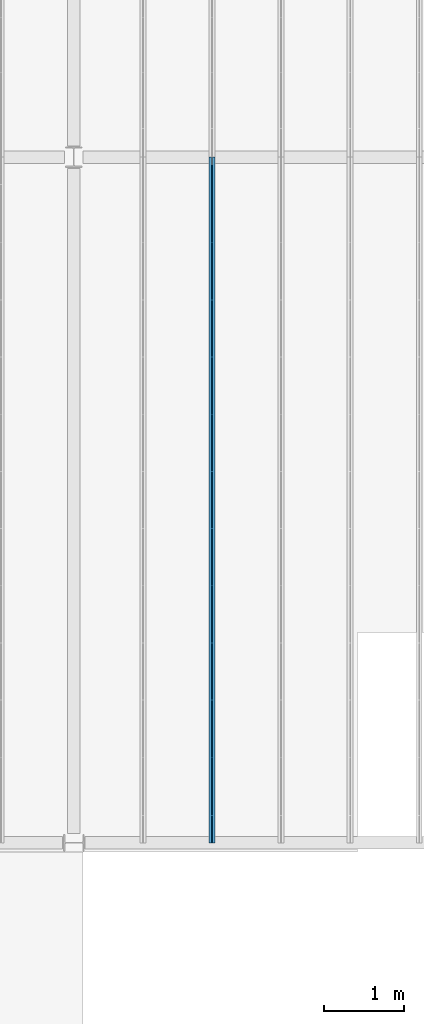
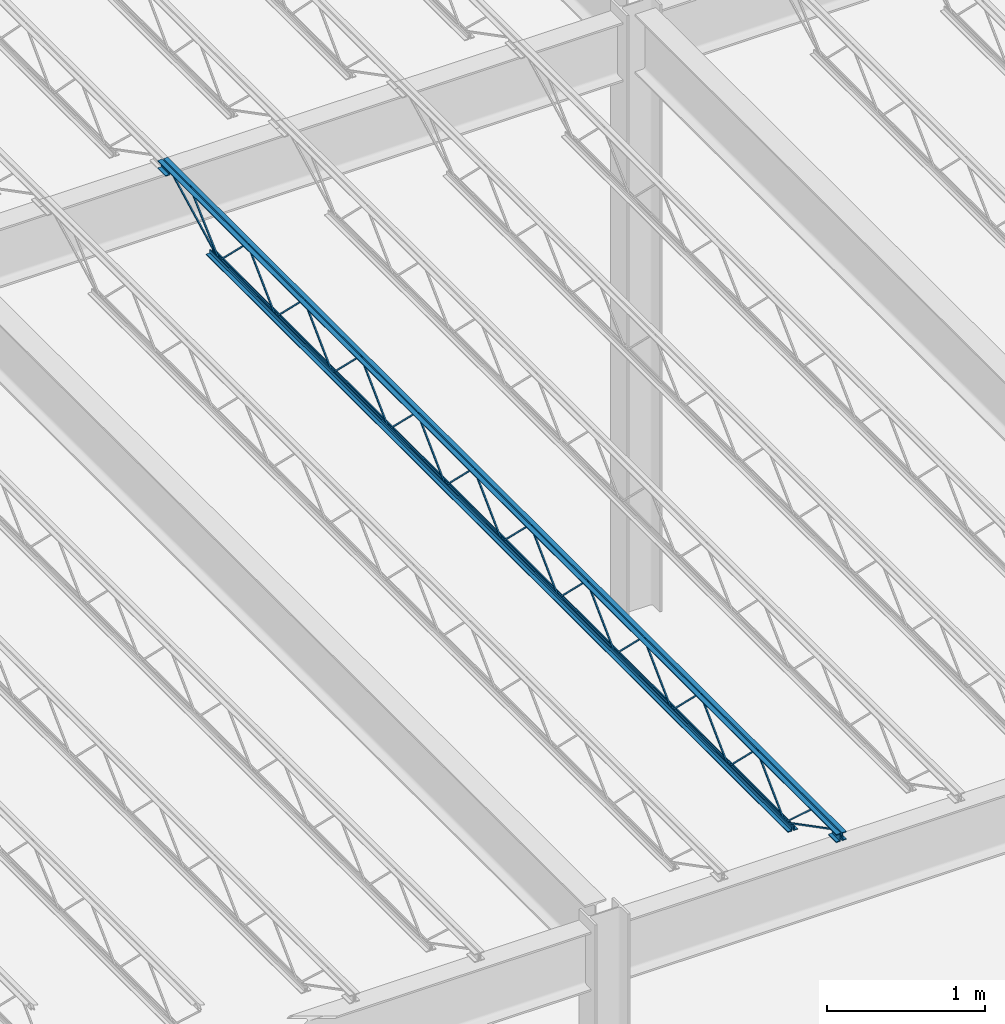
# One storey, part 47 of 119: 1 beam.
"""IFC2X3 building model written with IfcOpenShell, lengths in metres."""

from ifc_helpers import new_model, entity, si_unit, converted_unit, frame, origin, place, context, project, spatial, face_set, surface_model, element, save


model = new_model("IFC2X3")

# Units and contexts
model_context = context("Model", 3, precision=1e-09, world=origin())
plan_context = context("Plan", 3, precision=1e-09, world=origin())
ifc_project = project(units=[si_unit("LENGTHUNIT", "METRE"), si_unit("AREAUNIT", "SQUARE_METRE"), si_unit("VOLUMEUNIT", "CUBIC_METRE"), converted_unit("PLANEANGLEUNIT", "DEGREE", entity("IfcRatioMeasure", 0.01745329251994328), si_unit("PLANEANGLEUNIT", "RADIAN"), dimensions=[0, 0, 0, 0, 0, 0, 0]), si_unit("TIMEUNIT", "SECOND")], contexts=[model_context, plan_context])

# Site, building, storey
site_placement = place(None, origin())
site = spatial("IfcSite", under=ifc_project, at=site_placement, Name="Default", CompositionType="ELEMENT")
building_placement = place(site_placement, origin())
building = spatial("IfcBuilding", under=site, at=building_placement, CompositionType="ELEMENT")
storey_placement = place(building_placement, frame((0.0, 0.0, 4.570000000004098)))
storey = spatial("IfcBuildingStorey", under=building, at=storey_placement, Name="Second Floor", CompositionType="ELEMENT", Elevation=4.570000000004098)

# Beam
beam_placement = place(storey_placement, frame((-18.37007500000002, 10.03999999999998, 4.323999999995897)))
element("IfcBeam", 1, at=beam_placement, inside=storey, Name="M_K-Series Bar Joist-Rod Web:14K1:14K1", ObjectType="M_K-Series Bar Joist-Rod Web:14K1", context=model_context, shape_type="SurfaceModel", body=[
    surface_model("IfcFaceBasedSurfaceModel", [(0.04150000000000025, 6.428799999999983, 0.01110000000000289), (0.03200000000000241, 6.428799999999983, 0.01110000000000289), (0.03200000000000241, 6.428799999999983, 0.001600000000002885), (0.04150000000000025, 6.428799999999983, 0.001600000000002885), (0.03200000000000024, 6.430038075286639, 0.01110000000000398), (0.04150000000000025, 6.430038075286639, 0.01110000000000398), (0.0320000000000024, 6.433911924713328, 0.001600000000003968), (0.03200000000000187, 6.784861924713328, 0.3449000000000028), (0.03200000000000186, 6.787338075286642, 0.3449000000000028), (0.03200000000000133, 7.138288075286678, 0.001600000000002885), (0.03200000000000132, 7.143399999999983, 0.001600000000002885), (0.03200000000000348, 7.143399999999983, 0.01110000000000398), (0.03200000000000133, 7.142161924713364, 0.01110000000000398), (0.03200000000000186, 6.791211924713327, 0.3544000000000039), (0.03200000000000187, 6.780988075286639, 0.3544000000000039), (0.0415000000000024, 6.433911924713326, 0.001600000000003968), (0.0414999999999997, 6.784861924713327, 0.3449000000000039), (0.0414999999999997, 6.78733807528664, 0.3449000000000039), (0.04149999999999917, 7.138288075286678, 0.001600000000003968), (0.04149999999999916, 7.143399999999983, 0.001600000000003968), (0.04149999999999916, 7.143399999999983, 0.01110000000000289), (0.04149999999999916, 7.142161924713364, 0.01110000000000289), (0.0414999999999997, 6.79121192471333, 0.3544000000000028), (0.04149999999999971, 6.780988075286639, 0.3544000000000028), (0.04149999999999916, 5.714199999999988, 0.01110000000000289), (0.03200000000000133, 5.714199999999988, 0.01110000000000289), (0.03200000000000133, 5.714199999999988, 0.001600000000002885), (0.04149999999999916, 5.714199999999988, 0.001600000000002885), (0.03199999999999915, 5.715438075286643, 0.01110000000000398), (0.04149999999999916, 5.715438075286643, 0.01110000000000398), (0.03200000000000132, 5.71931192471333, 0.001600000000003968), (0.03200000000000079, 6.07026192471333, 0.3449000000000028), (0.03200000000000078, 6.072738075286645, 0.3449000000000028), (0.03200000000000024, 6.423688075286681, 0.001600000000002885), (0.03200000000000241, 6.428799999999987, 0.001600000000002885), (0.03200000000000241, 6.428799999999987, 0.01110000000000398), (0.03200000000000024, 6.427561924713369, 0.01110000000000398), (0.03200000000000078, 6.076611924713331, 0.3544000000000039), (0.03200000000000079, 6.066388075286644, 0.3544000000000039), (0.04150000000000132, 5.71931192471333, 0.001600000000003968), (0.04149999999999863, 6.07026192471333, 0.3449000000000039), (0.04149999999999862, 6.072738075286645, 0.3449000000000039), (0.04149999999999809, 6.423688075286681, 0.001600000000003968), (0.04149999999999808, 6.428799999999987, 0.001600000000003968), (0.04150000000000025, 6.428799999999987, 0.01110000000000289), (0.04150000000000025, 6.427561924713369, 0.01110000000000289), (0.04149999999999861, 6.076611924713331, 0.3544000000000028), (0.04149999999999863, 6.066388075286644, 0.3544000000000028), (0.04150000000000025, 4.999599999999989, 0.01110000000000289), (0.03200000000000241, 4.999599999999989, 0.01110000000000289), (0.03200000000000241, 4.999599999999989, 0.001600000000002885), (0.04150000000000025, 4.999599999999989, 0.001600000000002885), (0.03200000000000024, 5.000838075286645, 0.01110000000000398), (0.04150000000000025, 5.000838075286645, 0.01110000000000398), (0.0320000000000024, 5.004711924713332, 0.001600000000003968), (0.03200000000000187, 5.355661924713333, 0.3449000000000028), (0.03200000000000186, 5.358138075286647, 0.3449000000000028), (0.03200000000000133, 5.709088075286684, 0.001600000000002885), (0.03200000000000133, 5.714199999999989, 0.001600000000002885), (0.03200000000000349, 5.714199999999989, 0.01110000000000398), (0.03200000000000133, 5.712961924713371, 0.01110000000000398), (0.03200000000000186, 5.362011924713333, 0.3544000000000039), (0.03200000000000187, 5.351788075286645, 0.3544000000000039), (0.04150000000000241, 5.004711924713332, 0.001600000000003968), (0.04149999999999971, 5.355661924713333, 0.3449000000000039), (0.0414999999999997, 5.358138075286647, 0.3449000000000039), (0.04149999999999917, 5.709088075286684, 0.001600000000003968), (0.04149999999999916, 5.714199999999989, 0.001600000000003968), (0.04149999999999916, 5.714199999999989, 0.01110000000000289), (0.04149999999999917, 5.712961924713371, 0.01110000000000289), (0.0414999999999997, 5.362011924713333, 0.3544000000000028), (0.04149999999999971, 5.351788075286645, 0.3544000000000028), (0.04149999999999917, 4.284999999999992, 0.01110000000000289), (0.03200000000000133, 4.284999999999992, 0.01110000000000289), (0.03200000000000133, 4.284999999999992, 0.001600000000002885), (0.04149999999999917, 4.284999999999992, 0.001600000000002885), (0.03199999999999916, 4.286238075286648, 0.01110000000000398), (0.04149999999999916, 4.286238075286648, 0.01110000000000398), (0.03200000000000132, 4.290111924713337, 0.001600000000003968), (0.03200000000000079, 4.641061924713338, 0.3449000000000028), (0.03200000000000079, 4.643538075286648, 0.3449000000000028), (0.03200000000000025, 4.994488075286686, 0.001600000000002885), (0.03200000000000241, 4.999599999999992, 0.001600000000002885), (0.03200000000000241, 4.999599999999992, 0.01110000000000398), (0.03200000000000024, 4.998361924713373, 0.01110000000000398), (0.03200000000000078, 4.647411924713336, 0.3544000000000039), (0.03200000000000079, 4.637188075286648, 0.3544000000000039), (0.04150000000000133, 4.290111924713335, 0.001600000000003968), (0.04149999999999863, 4.641061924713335, 0.3449000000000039), (0.04149999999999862, 4.643538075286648, 0.3449000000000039), (0.04149999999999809, 4.994488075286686, 0.001600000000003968), (0.04149999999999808, 4.999599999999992, 0.001600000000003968), (0.04150000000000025, 4.999599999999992, 0.01110000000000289), (0.04149999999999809, 4.998361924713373, 0.01110000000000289), (0.04149999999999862, 4.647411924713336, 0.3544000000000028), (0.04149999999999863, 4.637188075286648, 0.3544000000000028), (0.04149999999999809, 3.570399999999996, 0.01110000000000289), (0.03200000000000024, 3.570399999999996, 0.01110000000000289), (0.03200000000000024, 3.570399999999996, 0.001600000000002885), (0.04149999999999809, 3.570399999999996, 0.001600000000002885), (0.03199999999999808, 3.571638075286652, 0.01110000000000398), (0.04149999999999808, 3.571638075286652, 0.01110000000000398), (0.0320000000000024, 3.575511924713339, 0.001600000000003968), (0.03200000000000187, 3.926461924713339, 0.3449000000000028), (0.03200000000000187, 3.928938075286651, 0.3449000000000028), (0.03200000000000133, 4.279888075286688, 0.001600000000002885), (0.03200000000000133, 4.284999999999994, 0.001600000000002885), (0.03200000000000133, 4.284999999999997, 0.01110000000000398), (0.03199999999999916, 4.283761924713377, 0.01110000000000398), (0.0319999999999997, 3.93281192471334, 0.3544000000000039), (0.03199999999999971, 3.922588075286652, 0.3544000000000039), (0.04150000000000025, 3.575511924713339, 0.001600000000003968), (0.04149999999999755, 3.926461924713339, 0.3449000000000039), (0.04149999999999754, 3.928938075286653, 0.3449000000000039), (0.04149999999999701, 4.27988807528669, 0.001600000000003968), (0.04149999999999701, 4.284999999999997, 0.001600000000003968), (0.04149999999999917, 4.284999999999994, 0.01110000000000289), (0.04149999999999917, 4.283761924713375, 0.01110000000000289), (0.0414999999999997, 3.932811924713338, 0.3544000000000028), (0.04149999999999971, 3.922588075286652, 0.3544000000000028), (0.04149999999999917, 2.855799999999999, 0.01110000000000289), (0.03200000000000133, 2.855799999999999, 0.01110000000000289), (0.03200000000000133, 2.855799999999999, 0.001600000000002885), (0.04149999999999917, 2.855799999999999, 0.001600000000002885), (0.03199999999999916, 2.857038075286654, 0.01110000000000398), (0.04149999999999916, 2.857038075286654, 0.01110000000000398), (0.03200000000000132, 2.860911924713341, 0.001600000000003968), (0.03200000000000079, 3.211861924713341, 0.3449000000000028), (0.03200000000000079, 3.214338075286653, 0.3449000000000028), (0.03200000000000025, 3.56528807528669, 0.001600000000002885), (0.03200000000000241, 3.570399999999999, 0.01110000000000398), (0.03200000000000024, 3.56916192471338, 0.01110000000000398), (0.03200000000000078, 3.218211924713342, 0.3544000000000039), (0.03200000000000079, 3.207988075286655, 0.3544000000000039), (0.04150000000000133, 2.860911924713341, 0.001600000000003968), (0.04149999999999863, 3.211861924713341, 0.3449000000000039), (0.04149999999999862, 3.214338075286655, 0.3449000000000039), (0.04149999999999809, 3.565288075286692, 0.001600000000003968), (0.04149999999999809, 3.570399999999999, 0.001600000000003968), (0.04149999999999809, 3.569161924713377, 0.01110000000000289), (0.04149999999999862, 3.21821192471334, 0.3544000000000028), (0.04149999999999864, 3.207988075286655, 0.3544000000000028), (0.04149999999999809, 2.1412, 0.01110000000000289), (0.03200000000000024, 2.1412, 0.01110000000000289), (0.03200000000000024, 2.1412, 0.001600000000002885), (0.04149999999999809, 2.1412, 0.001600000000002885), (0.03199999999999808, 2.142438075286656, 0.01110000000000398), (0.04149999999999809, 2.142438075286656, 0.01110000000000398), (0.0320000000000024, 2.146311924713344, 0.001600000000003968), (0.03200000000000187, 2.497261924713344, 0.3449000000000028), (0.03200000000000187, 2.499738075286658, 0.3449000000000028), (0.03200000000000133, 2.850688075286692, 0.001600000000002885), (0.03200000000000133, 2.8558, 0.001600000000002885), (0.03200000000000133, 2.8558, 0.01110000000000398), (0.03199999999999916, 2.854561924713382, 0.01110000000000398), (0.0319999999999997, 2.503611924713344, 0.3544000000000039), (0.03199999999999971, 2.493388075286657, 0.3544000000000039), (0.04150000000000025, 2.146311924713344, 0.001600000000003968), (0.04149999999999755, 2.497261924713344, 0.3449000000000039), (0.04149999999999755, 2.499738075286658, 0.3449000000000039), (0.04149999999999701, 2.850688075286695, 0.001600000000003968), (0.04149999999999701, 2.8558, 0.001600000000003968), (0.04149999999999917, 2.8558, 0.01110000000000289), (0.04149999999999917, 2.854561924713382, 0.01110000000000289), (0.0414999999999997, 2.503611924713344, 0.3544000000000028), (0.04149999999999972, 2.493388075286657, 0.3544000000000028), (0.04149999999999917, 1.426600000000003, 0.01110000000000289), (0.03200000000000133, 1.426600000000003, 0.01110000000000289), (0.03200000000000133, 1.426600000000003, 0.001600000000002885), (0.04149999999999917, 1.426600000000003, 0.001600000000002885), (0.03199999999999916, 1.427838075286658, 0.01110000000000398), (0.04149999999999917, 1.427838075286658, 0.01110000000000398), (0.03200000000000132, 1.431711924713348, 0.001600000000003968), (0.03200000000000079, 1.782661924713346, 0.3449000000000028), (0.03200000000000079, 1.78513807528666, 0.3449000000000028), (0.03200000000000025, 2.136088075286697, 0.001600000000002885), (0.03200000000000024, 2.141200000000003, 0.001600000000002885), (0.03200000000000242, 2.141200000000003, 0.01110000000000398), (0.03200000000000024, 2.139961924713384, 0.01110000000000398), (0.03200000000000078, 1.789011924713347, 0.3544000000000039), (0.03200000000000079, 1.778788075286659, 0.3544000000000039), (0.04150000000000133, 1.431711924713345, 0.001600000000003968), (0.04149999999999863, 1.782661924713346, 0.3449000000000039), (0.04149999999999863, 1.78513807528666, 0.3449000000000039), (0.04149999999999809, 2.136088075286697, 0.001600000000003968), (0.04149999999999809, 2.141200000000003, 0.001600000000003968), (0.04149999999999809, 2.141200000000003, 0.01110000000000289), (0.04149999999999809, 2.139961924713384, 0.01110000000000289), (0.04149999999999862, 1.789011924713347, 0.3544000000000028), (0.04149999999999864, 1.778788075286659, 0.3544000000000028), (0.04150000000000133, 7.143399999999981, 0.01109999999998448), (0.03200000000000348, 7.143399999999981, 0.01109999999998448), (0.03200000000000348, 7.143399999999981, 0.001599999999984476), (0.04150000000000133, 7.143399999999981, 0.001599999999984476), (0.03200000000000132, 7.144638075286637, 0.01109999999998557), (0.04150000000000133, 7.144638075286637, 0.01109999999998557), (0.03200000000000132, 7.148511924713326, 0.001599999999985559), (0.03200000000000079, 7.499461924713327, 0.3448999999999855), (0.03200000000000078, 7.50193807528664, 0.3448999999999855), (0.03200000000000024, 7.852888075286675, 0.001599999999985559), (0.03200000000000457, 7.857999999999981, 0.001599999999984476), (0.0320000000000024, 7.857999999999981, 0.01109999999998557), (0.03200000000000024, 7.856761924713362, 0.01109999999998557), (0.03200000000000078, 7.505811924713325, 0.3543999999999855), (0.03200000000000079, 7.495588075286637, 0.3543999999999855), (0.04150000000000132, 7.148511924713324, 0.001599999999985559), (0.04150000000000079, 7.499461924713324, 0.3448999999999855), (0.04150000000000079, 7.501938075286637, 0.3448999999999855), (0.04150000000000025, 7.852888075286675, 0.001599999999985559), (0.04150000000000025, 7.857999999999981, 0.001599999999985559), (0.04150000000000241, 7.857999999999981, 0.01109999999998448), (0.04150000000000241, 7.856761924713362, 0.01109999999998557), (0.04150000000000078, 7.505811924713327, 0.3543999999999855), (0.04150000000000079, 7.495588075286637, 0.3543999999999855), (0.04149999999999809, 0.712000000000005, 0.01110000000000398), (0.03200000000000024, 0.712000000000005, 0.01110000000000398), (0.03200000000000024, 0.712000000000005, 0.001600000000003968), (0.04149999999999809, 0.712000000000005, 0.001600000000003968), (0.03199999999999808, 0.7132380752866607, 0.01110000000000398), (0.04149999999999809, 0.7132380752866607, 0.01110000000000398), (0.0320000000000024, 0.7171119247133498, 0.001600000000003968), (0.03200000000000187, 1.068061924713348, 0.3449000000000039), (0.03200000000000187, 1.070538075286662, 0.3449000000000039), (0.03200000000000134, 1.421488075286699, 0.001600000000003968), (0.03200000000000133, 1.426600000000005, 0.001600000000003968), (0.03200000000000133, 1.426600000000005, 0.01110000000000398), (0.03199999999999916, 1.425361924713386, 0.01110000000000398), (0.0319999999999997, 1.074411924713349, 0.3544000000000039), (0.03199999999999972, 1.064188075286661, 0.3544000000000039), (0.04150000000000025, 0.7171119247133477, 0.001600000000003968), (0.04149999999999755, 1.068061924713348, 0.3449000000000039), (0.04149999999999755, 1.070538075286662, 0.3449000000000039), (0.04149999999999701, 1.421488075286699, 0.001600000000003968), (0.04149999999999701, 1.426600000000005, 0.001600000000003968), (0.04149999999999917, 1.426600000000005, 0.01110000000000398), (0.04149999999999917, 1.425361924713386, 0.01110000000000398), (0.0414999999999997, 1.074411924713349, 0.3544000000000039), (0.04149999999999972, 1.064188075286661, 0.3544000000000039), (0.03199999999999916, 8.569999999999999, 0.3559999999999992), (0.0, 8.569999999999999, 0.3559999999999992), (0.0, 8.569999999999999, 0.3494999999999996), (0.02549999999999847, 8.569999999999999, 0.3494999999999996), (0.02549999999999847, 8.569999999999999, 0.3239999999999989), (0.03199999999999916, 8.569999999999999, 0.3239999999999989), (0.04149999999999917, 8.569999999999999, 0.3559999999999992), (0.04149999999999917, 8.569999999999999, 0.3239999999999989), (0.04799999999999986, 8.569999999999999, 0.3239999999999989), (0.04799999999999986, 8.569999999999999, 0.3494999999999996), (0.07349999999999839, 8.569999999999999, 0.3494999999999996), (0.07349999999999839, 8.569999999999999, 0.3559999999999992), (0.03199999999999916, 0.0, 0.3559999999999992), (0.0, 0.0, 0.3559999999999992), (0.0, 0.0, 0.3494999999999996), (0.02549999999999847, 0.0, 0.3494999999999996), (0.02549999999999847, 0.0, 0.3239999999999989), (0.03199999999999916, 0.0, 0.3239999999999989), (0.04149999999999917, 0.0, 0.3559999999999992), (0.04149999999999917, 0.0, 0.3239999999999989), (0.04799999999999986, 0.0, 0.3239999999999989), (0.04799999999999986, 0.0, 0.3494999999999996), (0.07349999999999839, 0.0, 0.3494999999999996), (0.07349999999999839, 0.0, 0.3559999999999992), (0.04149999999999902, 0.0999999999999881, 0.2924999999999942), (0.07349999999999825, 0.0999999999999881, 0.2924999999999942), (0.07349999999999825, 0.0999999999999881, 0.2989999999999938), (0.0479999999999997, 0.0999999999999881, 0.2989999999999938), (0.0479999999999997, 0.0999999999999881, 0.3239999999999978), (0.04149999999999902, 0.0999999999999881, 0.3239999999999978), (0.0, 0.0999999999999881, 0.2924999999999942), (0.03199999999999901, 0.0999999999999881, 0.2924999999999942), (0.03199999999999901, 0.0999999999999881, 0.3239999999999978), (0.02549999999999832, 0.0999999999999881, 0.3239999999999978), (0.02549999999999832, 0.0999999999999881, 0.2989999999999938), (0.0, 0.0999999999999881, 0.2989999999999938), (0.04149999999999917, 0.0, 0.2924999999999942), (0.07349999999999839, 0.0, 0.2924999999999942), (0.07349999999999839, 0.0, 0.2989999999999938), (0.04799999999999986, 0.0, 0.2989999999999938), (0.04799999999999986, 0.0, 0.3239999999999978), (0.04149999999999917, 0.0, 0.3239999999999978), (0.0, 0.0, 0.2924999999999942), (0.03199999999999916, 0.0, 0.2924999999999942), (0.03199999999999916, 0.0, 0.3239999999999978), (0.02549999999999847, 0.0, 0.3239999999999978), (0.02549999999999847, 0.0, 0.2989999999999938), (0.0, 0.0, 0.2989999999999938), (0.03199999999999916, 8.569999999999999, 0.2924999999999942), (0.03199999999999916, 8.569999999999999, 0.3239999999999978), (0.02550000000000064, 8.569999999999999, 0.3239999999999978), (0.02550000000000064, 8.569999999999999, 0.2989999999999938), (0.0, 8.569999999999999, 0.2989999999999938), (0.0, 8.569999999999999, 0.2924999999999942), (0.04149999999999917, 8.569999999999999, 0.2924999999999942), (0.07350000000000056, 8.569999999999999, 0.2924999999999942), (0.07350000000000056, 8.569999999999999, 0.2989999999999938), (0.04799999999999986, 8.569999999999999, 0.2989999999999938), (0.04799999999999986, 8.569999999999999, 0.3239999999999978), (0.04149999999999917, 8.569999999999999, 0.3239999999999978), (0.03199999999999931, 8.47, 0.2924999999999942), (0.03199999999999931, 8.47, 0.3239999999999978), (0.02550000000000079, 8.47, 0.3239999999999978), (0.02550000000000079, 8.47, 0.2989999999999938), (0.0, 8.47, 0.2989999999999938), (0.0, 8.47, 0.2924999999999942), (0.04149999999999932, 8.47, 0.2924999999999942), (0.0735000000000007, 8.47, 0.2924999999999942), (0.0735000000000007, 8.47, 0.2989999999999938), (0.048, 8.47, 0.2989999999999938), (0.048, 8.47, 0.3239999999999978), (0.04149999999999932, 8.47, 0.3239999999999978), (0.03200000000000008, 7.958000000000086, 0.0), (0.03200000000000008, 7.958000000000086, 0.03199999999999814), (0.0254999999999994, 7.958000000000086, 0.03199999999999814), (0.0254999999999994, 7.958000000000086, 0.006499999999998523), (0.0, 7.958000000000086, 0.006499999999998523), (0.0, 7.958000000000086, 0.0), (0.04150000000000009, 7.958000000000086, 0.0), (0.07349999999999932, 7.958000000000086, 0.0), (0.07349999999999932, 7.958000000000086, 0.006499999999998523), (0.04800000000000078, 7.958000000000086, 0.006499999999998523), (0.04800000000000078, 7.958000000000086, 0.03199999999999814), (0.04150000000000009, 7.958000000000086, 0.03199999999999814), (0.03199999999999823, 0.6120000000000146, 0.0), (0.03199999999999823, 0.6120000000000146, 0.03199999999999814), (0.02549999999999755, 0.6120000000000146, 0.03199999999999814), (0.02549999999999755, 0.6120000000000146, 0.006499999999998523), (0.0, 0.6120000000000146, 0.006499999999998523), (0.0, 0.6120000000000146, 0.0), (0.04149999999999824, 0.6120000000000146, 0.0), (0.07349999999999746, 0.6120000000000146, 0.0), (0.07349999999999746, 0.6120000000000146, 0.006499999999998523), (0.04799999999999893, 0.6120000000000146, 0.006499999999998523), (0.04799999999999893, 0.6120000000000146, 0.03199999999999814), (0.04149999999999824, 0.6120000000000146, 0.03199999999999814), (0.04150000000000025, 0.7141882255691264, 0.01056594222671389), (0.03200000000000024, 0.7141882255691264, 0.01056594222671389), (0.03200000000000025, 0.7098117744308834, 0.002134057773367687), (0.04149999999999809, 0.7098117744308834, 0.00213405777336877), (0.04150000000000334, 0.1011592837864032, 0.3287499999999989), (0.0415000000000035, 0.0, 0.3287499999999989), (0.04150000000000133, 0.0, 0.3192499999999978), (0.04150000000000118, 0.09884071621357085, 0.3192499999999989), (0.03200000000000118, 0.09884071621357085, 0.3192499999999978), (0.03200000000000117, 0.1011592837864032, 0.3287499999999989), (0.03200000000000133, 0.0, 0.3287499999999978), (0.03200000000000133, 0.0, 0.3192499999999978), (0.04149999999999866, 0.3347428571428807, 0.3417000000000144), (0.03200000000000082, 0.3347428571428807, 0.3417000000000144), (0.03200000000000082, 0.3347428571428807, 0.3322000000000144), (0.04149999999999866, 0.3347428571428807, 0.3322000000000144), (0.03199999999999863, 0.349275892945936, 0.3417000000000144), (0.04149999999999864, 0.3492758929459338, 0.3417000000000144), (0.0320000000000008, 0.3456098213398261, 0.3322000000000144), (0.03200000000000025, 0.7088091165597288, 0.002831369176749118), (0.03200000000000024, 0.7151908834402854, 0.009868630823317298), (0.04150000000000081, 0.3456098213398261, 0.3322000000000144), (0.04149999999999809, 0.708809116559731, 0.002831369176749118), (0.04150000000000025, 0.7151908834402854, 0.009868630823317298), (0.04150000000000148, 8.472188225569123, 0.3197840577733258), (0.04149999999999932, 8.467811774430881, 0.328215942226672), (0.03199999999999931, 8.467811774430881, 0.328215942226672), (0.03200000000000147, 8.472188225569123, 0.3197840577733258), (0.04150000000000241, 7.860188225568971, 0.002134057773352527), (0.04150000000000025, 7.855811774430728, 0.01056594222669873), (0.03200000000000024, 7.855811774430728, 0.01056594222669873), (0.0320000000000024, 7.860188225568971, 0.002134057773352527), (0.04150000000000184, 8.233036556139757, 0.3461600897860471), (0.04149999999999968, 8.22659201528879, 0.3531399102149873), (0.03199999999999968, 8.22659201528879, 0.3531399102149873), (0.03200000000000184, 8.233036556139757, 0.3461600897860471), (0.04150000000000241, 7.86122227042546, 0.00286008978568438), (0.04150000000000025, 7.854777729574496, 0.009839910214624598), (0.03200000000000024, 7.854777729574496, 0.009839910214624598), (0.0320000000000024, 7.86122227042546, 0.00286008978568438)], [face_set([[[0, 1, 2, 3]], [[1, 4, 5, 0]], [[2, 6, 7, 8, 9, 10, 11, 12, 13, 14, 4, 1]], [[3, 2, 6, 15]], [[0, 3, 15, 16, 17, 18, 19, 20, 21, 22, 23, 5]], [[4, 5, 23, 14]], [[15, 16, 7, 6]], [[14, 13, 22, 23]], [[16, 7, 8, 17]], [[13, 12, 21, 22]], [[17, 8, 9, 18]], [[20, 11, 10, 19]], [[12, 11, 20, 21]], [[18, 9, 10, 19]]]), face_set([[[24, 25, 26, 27]], [[25, 28, 29, 24]], [[26, 30, 31, 32, 33, 34, 35, 36, 37, 38, 28, 25]], [[27, 26, 30, 39]], [[24, 27, 39, 40, 41, 42, 43, 44, 45, 46, 47, 29]], [[28, 29, 47, 38]], [[39, 40, 31, 30]], [[38, 37, 46, 47]], [[40, 31, 32, 41]], [[37, 36, 45, 46]], [[41, 32, 33, 42]], [[44, 35, 34, 43]], [[36, 35, 44, 45]], [[42, 33, 34, 43]]]), face_set([[[48, 49, 50, 51]], [[49, 52, 53, 48]], [[50, 54, 55, 56, 57, 58, 59, 60, 61, 62, 52, 49]], [[51, 50, 54, 63]], [[48, 51, 63, 64, 65, 66, 67, 68, 69, 70, 71, 53]], [[52, 53, 71, 62]], [[63, 64, 55, 54]], [[62, 61, 70, 71]], [[64, 55, 56, 65]], [[61, 60, 69, 70]], [[65, 56, 57, 66]], [[68, 59, 58, 67]], [[60, 59, 68, 69]], [[66, 57, 58, 67]]]), face_set([[[72, 73, 74, 75]], [[73, 76, 77, 72]], [[74, 78, 79, 80, 81, 82, 83, 84, 85, 86, 76, 73]], [[75, 74, 78, 87]], [[72, 75, 87, 88, 89, 90, 91, 92, 93, 94, 95, 77]], [[76, 77, 95, 86]], [[87, 88, 79, 78]], [[86, 85, 94, 95]], [[88, 79, 80, 89]], [[85, 84, 93, 94]], [[89, 80, 81, 90]], [[92, 83, 82, 91]], [[84, 83, 92, 93]], [[90, 81, 82, 91]]]), face_set([[[96, 97, 98, 99]], [[97, 100, 101, 96]], [[98, 102, 103, 104, 105, 106, 107, 108, 109, 110, 100, 97]], [[99, 98, 102, 111]], [[96, 99, 111, 112, 113, 114, 115, 116, 117, 118, 119, 101]], [[100, 101, 119, 110]], [[111, 112, 103, 102]], [[110, 109, 118, 119]], [[112, 103, 104, 113]], [[109, 108, 117, 118]], [[113, 104, 105, 114]], [[116, 107, 106, 115]], [[108, 107, 116, 117]], [[114, 105, 106, 115]]]), face_set([[[120, 121, 122, 123]], [[121, 124, 125, 120]], [[122, 126, 127, 128, 129, 98, 130, 131, 132, 133, 124, 121]], [[123, 122, 126, 134]], [[120, 123, 134, 135, 136, 137, 138, 96, 139, 140, 141, 125]], [[124, 125, 141, 133]], [[134, 135, 127, 126]], [[133, 132, 140, 141]], [[135, 127, 128, 136]], [[132, 131, 139, 140]], [[136, 128, 129, 137]], [[96, 130, 98, 138]], [[131, 130, 96, 139]], [[137, 129, 98, 138]]]), face_set([[[142, 143, 144, 145]], [[143, 146, 147, 142]], [[144, 148, 149, 150, 151, 152, 153, 154, 155, 156, 146, 143]], [[145, 144, 148, 157]], [[142, 145, 157, 158, 159, 160, 161, 162, 163, 164, 165, 147]], [[146, 147, 165, 156]], [[157, 158, 149, 148]], [[156, 155, 164, 165]], [[158, 149, 150, 159]], [[155, 154, 163, 164]], [[159, 150, 151, 160]], [[162, 153, 152, 161]], [[154, 153, 162, 163]], [[160, 151, 152, 161]]]), face_set([[[166, 167, 168, 169]], [[167, 170, 171, 166]], [[168, 172, 173, 174, 175, 176, 177, 178, 179, 180, 170, 167]], [[169, 168, 172, 181]], [[166, 169, 181, 182, 183, 184, 185, 186, 187, 188, 189, 171]], [[170, 171, 189, 180]], [[181, 182, 173, 172]], [[180, 179, 188, 189]], [[182, 173, 174, 183]], [[179, 178, 187, 188]], [[183, 174, 175, 184]], [[186, 177, 176, 185]], [[178, 177, 186, 187]], [[184, 175, 176, 185]]]), face_set([[[190, 191, 192, 193]], [[191, 194, 195, 190]], [[192, 196, 197, 198, 199, 200, 201, 202, 203, 204, 194, 191]], [[193, 192, 196, 205]], [[190, 193, 205, 206, 207, 208, 209, 210, 211, 212, 213, 195]], [[194, 195, 213, 204]], [[205, 206, 197, 196]], [[204, 203, 212, 213]], [[206, 197, 198, 207]], [[203, 202, 211, 212]], [[207, 198, 199, 208]], [[210, 201, 200, 209]], [[202, 201, 210, 211]], [[208, 199, 200, 209]]]), face_set([[[214, 215, 216, 217]], [[215, 218, 219, 214]], [[216, 220, 221, 222, 223, 224, 225, 226, 227, 228, 218, 215]], [[217, 216, 220, 229]], [[214, 217, 229, 230, 231, 232, 233, 234, 235, 236, 237, 219]], [[218, 219, 237, 228]], [[229, 230, 221, 220]], [[228, 227, 236, 237]], [[230, 221, 222, 231]], [[227, 226, 235, 236]], [[231, 222, 223, 232]], [[234, 225, 224, 233]], [[226, 225, 234, 235]], [[232, 223, 224, 233]]]), face_set([[[238, 239, 240, 241, 242, 243]], [[244, 245, 246, 247, 248, 249]], [[250, 251, 252, 253, 254, 255]], [[256, 257, 258, 259, 260, 261]], [[243, 238, 250, 255]], [[242, 243, 255, 254]], [[241, 253, 254, 242]], [[240, 241, 253, 252]], [[239, 251, 252, 240]], [[238, 250, 251, 239]], [[249, 261, 256, 244]], [[248, 249, 261, 260]], [[247, 248, 260, 259]], [[246, 247, 259, 258]], [[245, 246, 258, 257]], [[244, 256, 257, 245]]]), face_set([[[262, 263, 264, 265, 266, 267]], [[268, 269, 270, 271, 272, 273]], [[274, 275, 276, 277, 278, 279]], [[280, 281, 282, 283, 284, 285]], [[267, 279, 274, 262]], [[266, 278, 279, 267]], [[265, 266, 278, 277]], [[264, 276, 277, 265]], [[263, 264, 276, 275]], [[262, 263, 275, 274]], [[273, 285, 280, 268]], [[272, 284, 285, 273]], [[271, 283, 284, 272]], [[270, 282, 283, 271]], [[269, 270, 282, 281]], [[268, 269, 281, 280]]]), face_set([[[286, 287, 288, 289, 290, 291]], [[292, 293, 294, 295, 296, 297]], [[298, 299, 300, 301, 302, 303]], [[304, 305, 306, 307, 308, 309]], [[291, 286, 298, 303]], [[290, 302, 303, 291]], [[289, 301, 302, 290]], [[288, 300, 301, 289]], [[287, 299, 300, 288]], [[286, 287, 299, 298]], [[297, 309, 304, 292]], [[296, 308, 309, 297]], [[295, 296, 308, 307]], [[294, 306, 307, 295]], [[293, 294, 306, 305]], [[292, 293, 305, 304]]]), face_set([[[310, 311, 312, 313, 314, 315]], [[316, 317, 318, 319, 320, 321]], [[322, 323, 324, 325, 326, 327]], [[328, 329, 330, 331, 332, 333]], [[315, 310, 322, 327]], [[314, 326, 327, 315]], [[313, 325, 326, 314]], [[312, 324, 325, 313]], [[311, 323, 324, 312]], [[310, 311, 323, 322]], [[321, 333, 328, 316]], [[320, 332, 333, 321]], [[319, 320, 332, 331]], [[318, 330, 331, 319]], [[317, 318, 330, 329]], [[316, 317, 329, 328]]]), face_set([[[334, 335, 336, 337]], [[337, 334, 338, 339, 340, 341]], [[336, 337, 341, 342]], [[335, 343, 344, 345, 342, 336]], [[334, 338, 343, 335]], [[339, 344, 345, 340]], [[342, 341, 340, 345]], [[338, 339, 344, 343]]]), face_set([[[346, 347, 348, 349]], [[347, 350, 351, 346]], [[348, 352, 353, 354, 350, 347]], [[349, 348, 352, 355]], [[346, 349, 355, 356, 357, 351]], [[357, 354, 353, 356]], [[350, 354, 357, 351]], [[355, 352, 353, 356]]]), face_set([[[358, 359, 360, 361]], [[362, 363, 364, 365]], [[361, 358, 362, 365]], [[360, 364, 365, 361]], [[359, 363, 364, 360]], [[358, 359, 363, 362]]]), face_set([[[366, 367, 368, 369]], [[370, 371, 372, 373]], [[369, 373, 370, 366]], [[368, 372, 373, 369]], [[367, 368, 372, 371]], [[366, 367, 371, 370]]])]),
])

save(model, "model.ifc")
